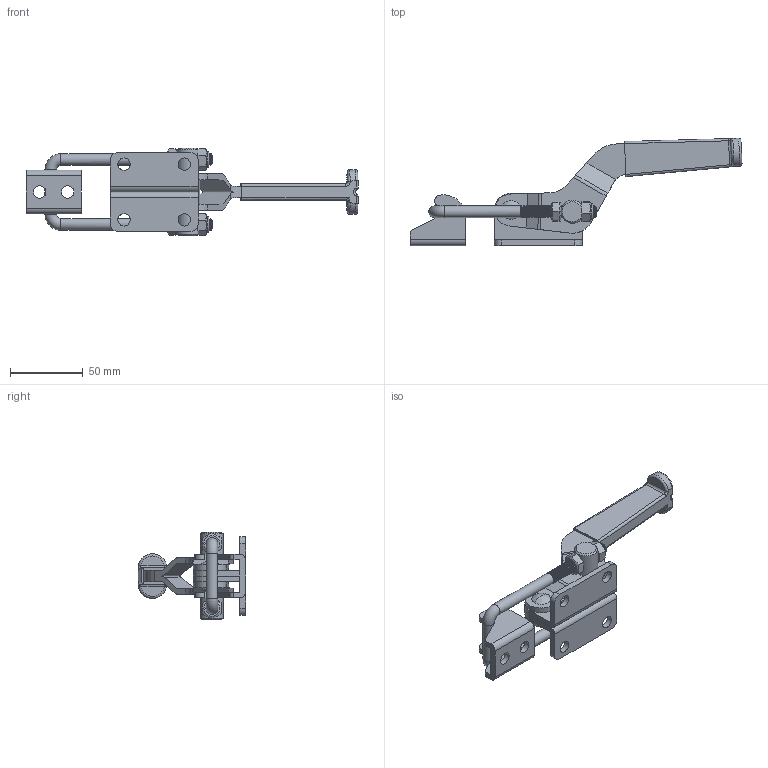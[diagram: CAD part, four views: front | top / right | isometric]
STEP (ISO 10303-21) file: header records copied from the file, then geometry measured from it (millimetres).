
FILE_DESCRIPTION(/* description */ ('STEP AP203'),/* implementation_level */ '2;1');
FILE_NAME(/* name */ 'D:\Vault_2016\Projekty\Clamptek\STRONA\Latch type clamp\CH-40341\CH-40341.stp',/* time_stamp */ '2019-01-11T16:32:37+01:00',/* author */ ('Łukasz'),/* organization */ ('Î¢ÈíÖÐ¹ú'),/* preprocessor_version */ 'ST-DEVELOPER v17.2',/* originating_system */ 'Autodesk Inventor 2019',/* authorisation */ '');
FILE_SCHEMA (('AUTOMOTIVE_DESIGN { 1 0 10303 214 3 1 1 }'));
Length unit declared in the file: millimetre
Products named in the file (10): CH-40341; 40341-06_Ä¬ÈÏ; 40341-05_Ä¬ÈÏ; 40341-02_Ä¬ÈÏ; 07_Ä¬ÈÏ; 40341-03_Ä¬ÈÏ; 40341-01_Ä¬ÈÏ; M8_Ä¬ÈÏ; 40341-04_Ä¬ÈÏ; M8·ÀËÉ_Ä¬ÈÏ
Assembly tree (11 placements, depth 2):
  CH-40341
    40341-06_Ä¬ÈÏ
    40341-05_Ä¬ÈÏ
    40341-02_Ä¬ÈÏ
    07_Ä¬ÈÏ
    40341-03_Ä¬ÈÏ
    M8_Ä¬ÈÏ  x2
    40341-01_Ä¬ÈÏ
    M8·ÀËÉ_Ä¬ÈÏ  x2
    40341-04_Ä¬ÈÏ
Bounding box: 227.83 x 73.63 x 60.2 mm (x, y, z)
Volume: 95756.9 mm3; surface area: 52906.1 mm2
Topology: 12 solids, 12 shells, 1423 faces, 3667 edges, 2291 vertices
Faces by surface type: plane 754, cylinder 447, bspline 186, cone 21, torus 11, sphere 4
Full cylindrical faces by diameter (mm): 1.041 x1, 1.162 x1, 6.151 x1, 6.5 x18, 8 x107, 8.4 x2, 8.5 x6, 11 x2, 12 x2, 15.8 x3
Entity records: 64273 total; most frequent: CARTESIAN_POINT 31392, ORIENTED_EDGE 7104, DIRECTION 6335, EDGE_CURVE 3552, VERTEX_POINT 2216, AXIS2_PLACEMENT_3D 2207, LINE 1921, VECTOR 1921
